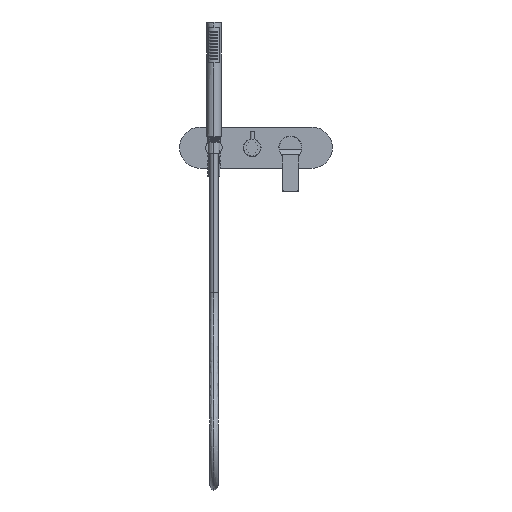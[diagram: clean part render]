
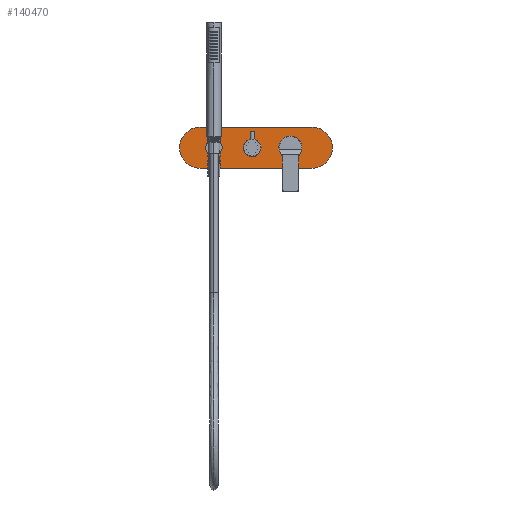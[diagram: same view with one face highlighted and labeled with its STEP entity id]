
A CAD part, top view. The second image highlights one B-rep face of the part: STEP entity #140470.
In plain terms, the highlighted planar face has unit normal (0, 0, 1).
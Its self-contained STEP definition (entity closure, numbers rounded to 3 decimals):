
#79690=DIRECTION('',(-1.,0.,0.));
#79691=VECTOR('',#79690,205.);
#79692=CARTESIAN_POINT('',(109.5,37.5,15.5));
#79693=LINE('',#79692,#79691);
#79694=CARTESIAN_POINT('',(109.5,0.,15.5));
#79695=DIRECTION('',(0.,0.,1.));
#79696=DIRECTION('',(0.,-1.,0.));
#79697=AXIS2_PLACEMENT_3D('',#79694,#79695,#79696);
#79699=DIRECTION('',(1.,0.,0.));
#79700=VECTOR('',#79699,205.);
#79701=CARTESIAN_POINT('',(-95.5,-37.5,15.5));
#79702=LINE('',#79701,#79700);
#79703=CARTESIAN_POINT('',(-95.5,0.,15.5));
#79704=DIRECTION('',(0.,0.,1.));
#79705=DIRECTION('',(0.,1.,0.));
#79706=AXIS2_PLACEMENT_3D('',#79703,#79704,#79705);
#79708=CARTESIAN_POINT('',(70.,0.,15.5));
#79709=DIRECTION('',(0.,0.,1.));
#79710=DIRECTION('',(0.,-1.,0.));
#79711=AXIS2_PLACEMENT_3D('',#79708,#79709,#79710);
#79713=CARTESIAN_POINT('',(70.,0.,15.5));
#79714=DIRECTION('',(0.,0.,1.));
#79715=DIRECTION('',(0.,1.,0.));
#79716=AXIS2_PLACEMENT_3D('',#79713,#79714,#79715);
#79718=CARTESIAN_POINT('',(0.,0.,15.5));
#79719=DIRECTION('',(0.,0.,1.));
#79720=DIRECTION('',(0.,-1.,0.));
#79721=AXIS2_PLACEMENT_3D('',#79718,#79719,#79720);
#79723=CARTESIAN_POINT('',(0.,0.,15.5));
#79724=DIRECTION('',(0.,0.,1.));
#79725=DIRECTION('',(0.,1.,0.));
#79726=AXIS2_PLACEMENT_3D('',#79723,#79724,#79725);
#79728=CARTESIAN_POINT('',(-70.,0.,15.5));
#79729=DIRECTION('',(0.,0.,1.));
#79730=DIRECTION('',(0.,-1.,0.));
#79731=AXIS2_PLACEMENT_3D('',#79728,#79729,#79730);
#79733=CARTESIAN_POINT('',(-70.,0.,15.5));
#79734=DIRECTION('',(0.,0.,1.));
#79735=DIRECTION('',(0.,1.,0.));
#79736=AXIS2_PLACEMENT_3D('',#79733,#79734,#79735);
#137652=CARTESIAN_POINT('',(109.5,37.5,15.5));
#137653=CARTESIAN_POINT('',(-95.5,37.5,15.5));
#137654=VERTEX_POINT('',#137652);
#137655=VERTEX_POINT('',#137653);
#137656=CARTESIAN_POINT('',(-95.5,-37.5,15.5));
#137657=VERTEX_POINT('',#137656);
#137658=CARTESIAN_POINT('',(109.5,-37.5,15.5));
#137659=VERTEX_POINT('',#137658);
#137672=CARTESIAN_POINT('',(70.,-20.25,15.5));
#137673=CARTESIAN_POINT('',(70.,20.25,15.5));
#137674=VERTEX_POINT('',#137672);
#137675=VERTEX_POINT('',#137673);
#137676=CARTESIAN_POINT('',(0.,-16.25,15.5));
#137677=CARTESIAN_POINT('',(0.,16.25,15.5));
#137678=VERTEX_POINT('',#137676);
#137679=VERTEX_POINT('',#137677);
#138755=CARTESIAN_POINT('',(-70.,-14.9,15.5));
#138756=CARTESIAN_POINT('',(-70.,14.9,15.5));
#138757=VERTEX_POINT('',#138755);
#138758=VERTEX_POINT('',#138756);
#140439=CARTESIAN_POINT('',(7.,0.,15.5));
#140440=DIRECTION('',(0.,0.,1.));
#140441=DIRECTION('',(-1.,0.,0.));
#140442=AXIS2_PLACEMENT_3D('',#140439,#140440,#140441);
#140443=PLANE('',#140442);
#140445=ORIENTED_EDGE('',*,*,#140444,.F.);
#140447=ORIENTED_EDGE('',*,*,#140446,.F.);
#140449=ORIENTED_EDGE('',*,*,#140448,.F.);
#140451=ORIENTED_EDGE('',*,*,#140450,.F.);
#140452=EDGE_LOOP('',(#140445,#140447,#140449,#140451));
#140453=FACE_OUTER_BOUND('',#140452,.F.);
#140455=ORIENTED_EDGE('',*,*,#140454,.T.);
#140457=ORIENTED_EDGE('',*,*,#140456,.T.);
#140458=EDGE_LOOP('',(#140455,#140457));
#140459=FACE_BOUND('',#140458,.F.);
#140461=ORIENTED_EDGE('',*,*,#140460,.T.);
#140463=ORIENTED_EDGE('',*,*,#140462,.T.);
#140464=EDGE_LOOP('',(#140461,#140463));
#140465=FACE_BOUND('',#140464,.F.);
#140466=ORIENTED_EDGE('',*,*,#140419,.T.);
#140467=ORIENTED_EDGE('',*,*,#140319,.T.);
#140468=EDGE_LOOP('',(#140466,#140467));
#140469=FACE_BOUND('',#140468,.F.);
#140470=ADVANCED_FACE('',(#140453,#140459,#140465,#140469),#140443,.T.);
#79698=CIRCLE('',#79697,37.5);
#79707=CIRCLE('',#79706,37.5);
#79712=CIRCLE('',#79711,20.25);
#79717=CIRCLE('',#79716,20.25);
#79722=CIRCLE('',#79721,16.25);
#79727=CIRCLE('',#79726,16.25);
#79732=CIRCLE('',#79731,14.9);
#79737=CIRCLE('',#79736,14.9);
#140319=EDGE_CURVE('',#138758,#138757,#79737,.T.);
#140419=EDGE_CURVE('',#138757,#138758,#79732,.T.);
#140444=EDGE_CURVE('',#137654,#137655,#79693,.T.);
#140446=EDGE_CURVE('',#137659,#137654,#79698,.T.);
#140448=EDGE_CURVE('',#137657,#137659,#79702,.T.);
#140450=EDGE_CURVE('',#137655,#137657,#79707,.T.);
#140454=EDGE_CURVE('',#137674,#137675,#79712,.T.);
#140456=EDGE_CURVE('',#137675,#137674,#79717,.T.);
#140460=EDGE_CURVE('',#137678,#137679,#79722,.T.);
#140462=EDGE_CURVE('',#137679,#137678,#79727,.T.);
